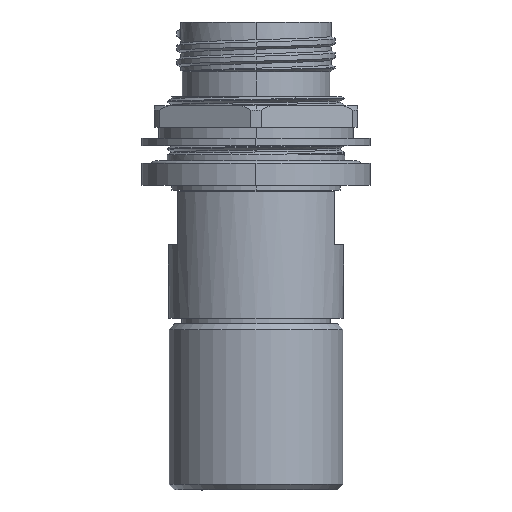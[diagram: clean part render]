
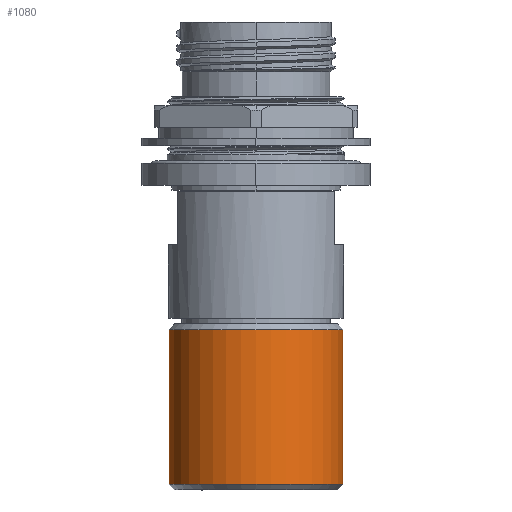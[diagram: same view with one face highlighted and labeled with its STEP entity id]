
A CAD part, left-side view. The second image highlights one B-rep face of the part: STEP entity #1080.
In plain terms, the highlighted cylindrical face has radius 15.557 mm (diameter 31.115 mm), a partial arc.
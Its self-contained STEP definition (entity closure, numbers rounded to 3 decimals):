
#41 = ORIENTED_EDGE ( 'NONE', *, *, #18669, .F. ) ;
#337 = CARTESIAN_POINT ( 'NONE',  ( 0., -15.557, -54.991 ) ) ;
#1080 = ADVANCED_FACE ( 'NONE', ( #16140 ), #14445, .T. ) ;
#1476 = VERTEX_POINT ( 'NONE', #337 ) ;
#1619 = EDGE_CURVE ( 'NONE', #14884, #1476, #21389, .T. ) ;
#2858 = EDGE_CURVE ( 'NONE', #19316, #14884, #18593, .T. ) ;
#2958 = CARTESIAN_POINT ( 'NONE',  ( 0., 0., -82.677 ) ) ;
#3759 = CARTESIAN_POINT ( 'NONE',  ( 0., 15.557, -54.991 ) ) ;
#4408 = VECTOR ( 'NONE', #9597, 1000. ) ;
#5505 = DIRECTION ( 'NONE',  ( 0., 0., 1. ) ) ;
#5984 = CARTESIAN_POINT ( 'NONE',  ( 0., 15.557, -82.677 ) ) ;
#8253 = DIRECTION ( 'NONE',  ( 0., 0., 1. ) ) ;
#8728 = AXIS2_PLACEMENT_3D ( 'NONE', #13664, #20535, #15576 ) ;
#8931 = VECTOR ( 'NONE', #5505, 1000. ) ;
#9597 = DIRECTION ( 'NONE',  ( 0., 0., 1. ) ) ;
#10179 = ORIENTED_EDGE ( 'NONE', *, *, #2858, .T. ) ;
#11738 = AXIS2_PLACEMENT_3D ( 'NONE', #2958, #8253, #18606 ) ;
#11847 = ORIENTED_EDGE ( 'NONE', *, *, #1619, .T. ) ;
#12863 = AXIS2_PLACEMENT_3D ( 'NONE', #14225, #16030, #21330 ) ;
#13664 = CARTESIAN_POINT ( 'NONE',  ( 0., 0., -54.991 ) ) ;
#14060 = CARTESIAN_POINT ( 'NONE',  ( 0., -15.557, -83.693 ) ) ;
#14225 = CARTESIAN_POINT ( 'NONE',  ( 0., 0., -83.693 ) ) ;
#14407 = EDGE_CURVE ( 'NONE', #1476, #15716, #18444, .T. ) ;
#14445 = CYLINDRICAL_SURFACE ( 'NONE', #12863, 15.557 ) ;
#14884 = VERTEX_POINT ( 'NONE', #18030 ) ;
#15576 = DIRECTION ( 'NONE',  ( 0., -1., 0. ) ) ;
#15716 = VERTEX_POINT ( 'NONE', #3759 ) ;
#16030 = DIRECTION ( 'NONE',  ( 0., 0., 1. ) ) ;
#16140 = FACE_OUTER_BOUND ( 'NONE', #21034, .T. ) ;
#16361 = CARTESIAN_POINT ( 'NONE',  ( 0., 15.557, -83.693 ) ) ;
#18030 = CARTESIAN_POINT ( 'NONE',  ( 0., -15.557, -82.677 ) ) ;
#18171 = LINE ( 'NONE', #16361, #4408 ) ;
#18444 = CIRCLE ( 'NONE', #8728, 15.557 ) ;
#18593 = CIRCLE ( 'NONE', #11738, 15.557 ) ;
#18606 = DIRECTION ( 'NONE',  ( 0., 1., 0. ) ) ;
#18669 = EDGE_CURVE ( 'NONE', #19316, #15716, #18171, .T. ) ;
#19316 = VERTEX_POINT ( 'NONE', #5984 ) ;
#20535 = DIRECTION ( 'NONE',  ( 0., 0., -1. ) ) ;
#21034 = EDGE_LOOP ( 'NONE', ( #41, #10179, #11847, #21771 ) ) ;
#21330 = DIRECTION ( 'NONE',  ( 0., 1., 0. ) ) ;
#21389 = LINE ( 'NONE', #14060, #8931 ) ;
#21771 = ORIENTED_EDGE ( 'NONE', *, *, #14407, .T. ) ;
